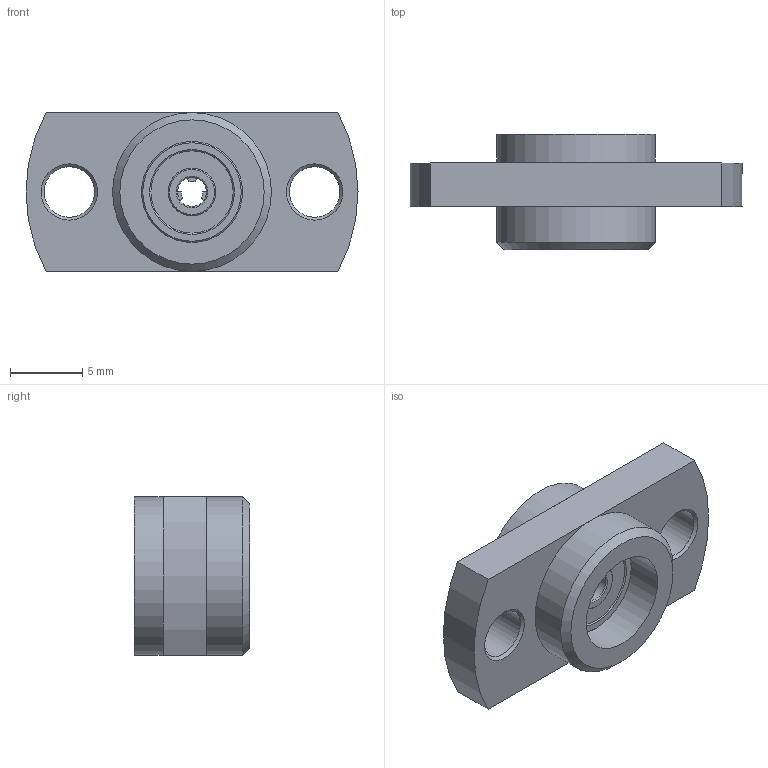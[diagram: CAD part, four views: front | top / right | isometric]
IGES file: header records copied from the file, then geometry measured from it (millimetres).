
Global section: file name:  ; native system: Kubotek KeyCreator; preprocessor: KCM Version 1.1.28; author: KeyCreator•p{ž; organization: Self; date: 20161124.005715; units: millimetre
Bounding box: 23 x 8 x 11 mm (x, y, z)
Surface area: 998.7 mm2 (no closed solid volume)
Topology: 0 solids, 0 shells, 55 faces, 218 edges, 207 vertices
Faces by surface type: revolution 28, plane 27
